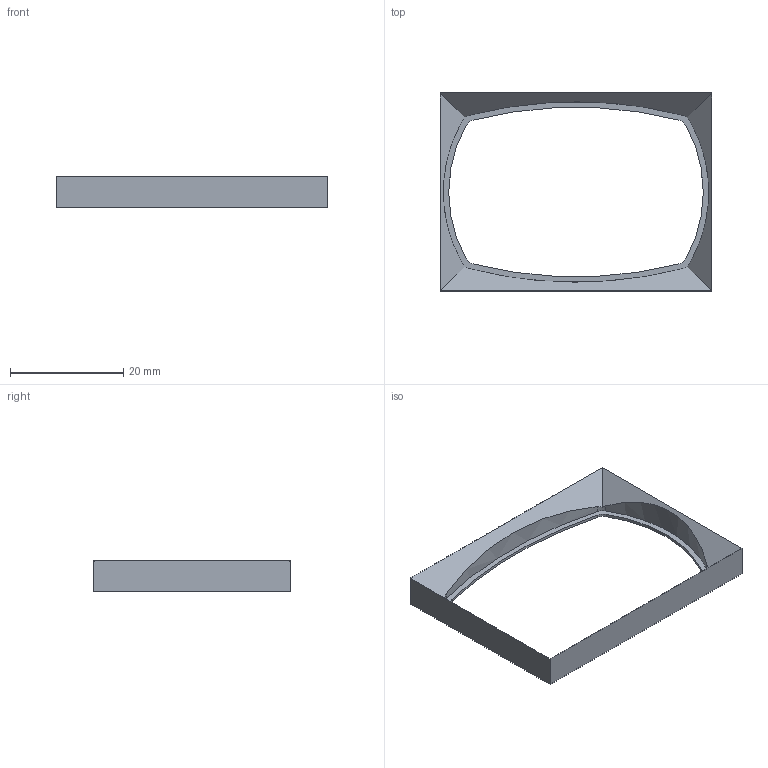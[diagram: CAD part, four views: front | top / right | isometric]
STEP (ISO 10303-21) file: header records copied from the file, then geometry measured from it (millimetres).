
FILE_DESCRIPTION(/* description */ (''),/* implementation_level */ '2;1');
FILE_NAME(/* name */ 'Lumi_TVdisplayframe.step',/* time_stamp */ '2025-06-14T15:42:17+05:30',/* author */ (''),/* organization */ (''),/* preprocessor_version */ 'ST-DEVELOPER v20.1',/* originating_system */ 'Autodesk Translation Framework v14.10.0.0',/* authorisation */ '');
FILE_SCHEMA (('AUTOMOTIVE_DESIGN { 1 0 10303 214 3 1 1 }'));
Length unit declared in the file: millimetre
Products named in the file (1): Display_Frame
Bounding box: 48 x 35 x 5.5 mm (x, y, z)
Volume: 1538.4 mm3; surface area: 2481.1 mm2
Topology: 1 solids, 1 shells, 26 faces, 68 edges, 44 vertices
Faces by surface type: cylinder 16, plane 10
Entity records: 853 total; most frequent: DIRECTION 158, CARTESIAN_POINT 139, ORIENTED_EDGE 136, EDGE_CURVE 68, AXIS2_PLACEMENT_3D 63, VERTEX_POINT 44, LINE 32, VECTOR 32
